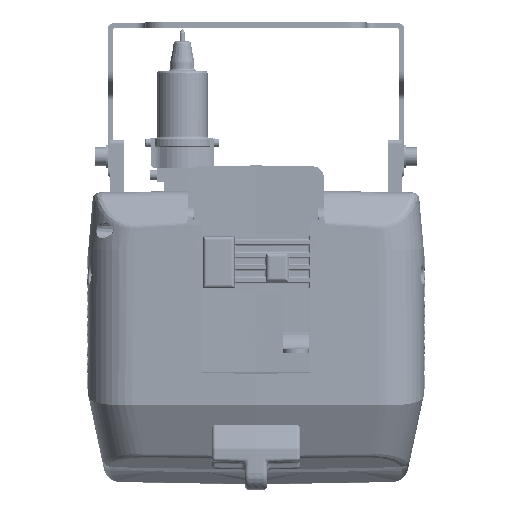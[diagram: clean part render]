
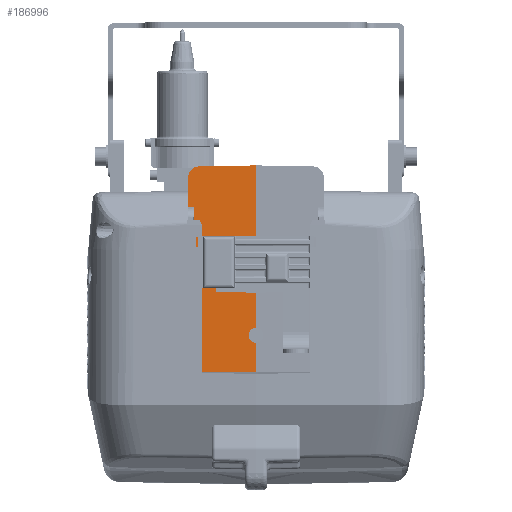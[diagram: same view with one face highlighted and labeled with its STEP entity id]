
A CAD part, front view. The second image highlights one B-rep face of the part: STEP entity #186996.
In plain terms, the highlighted planar face has unit normal (0.018, -1, 0).
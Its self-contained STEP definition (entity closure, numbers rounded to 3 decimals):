
#2587 = CARTESIAN_POINT ( 'NONE',  ( -0.262, -233.905, 45.168 ) ) ;
#8382 = CARTESIAN_POINT ( 'NONE',  ( 0., -233.9, -500000. ) ) ;
#8784 = LINE ( 'NONE', #9835, #206971 ) ;
#9463 = CARTESIAN_POINT ( 'NONE',  ( -33.733, -234.489, -65.396 ) ) ;
#9835 = CARTESIAN_POINT ( 'NONE',  ( 8276.214, -89.438, -204.257 ) ) ;
#9976 =( BOUNDED_CURVE ( )  B_SPLINE_CURVE ( 3, ( #124158, #154887, #171832, #91422 ),
 .UNSPECIFIED., .F., .T. ) 
 B_SPLINE_CURVE_WITH_KNOTS ( ( 4, 4 ),
 ( 5.65, 7.2 ),
 .UNSPECIFIED. ) 
 CURVE ( )  GEOMETRIC_REPRESENTATION_ITEM ( )  RATIONAL_B_SPLINE_CURVE ( ( 1., 0.809, 0.809, 1. ) ) 
 REPRESENTATION_ITEM ( '' )  );
#10472 = DIRECTION ( 'NONE',  ( 0., 0., 1. ) ) ;
#14296 = EDGE_LOOP ( 'NONE', ( #159628, #145640, #46091, #40464, #60163, #127505, #83917, #26564, #110088, #155533, #118351, #141555, #91053, #155002 ) ) ;
#15264 = CARTESIAN_POINT ( 'NONE',  ( 6108.58, -127.274, -52.559 ) ) ;
#16001 = EDGE_CURVE ( 'NONE', #159139, #88670, #18455, .T. ) ;
#18455 = LINE ( 'NONE', #2587, #204445 ) ;
#22668 = VECTOR ( 'NONE', #147428, 1000. ) ;
#25341 = CARTESIAN_POINT ( 'NONE',  ( -30.787, -234.437, -66.657 ) ) ;
#26564 = ORIENTED_EDGE ( 'NONE', *, *, #37555, .T. ) ;
#27009 = VERTEX_POINT ( 'NONE', #204802 ) ;
#27067 = LINE ( 'NONE', #175209, #57710 ) ;
#27421 = CARTESIAN_POINT ( 'NONE',  ( -33.733, -234.489, -63.665 ) ) ;
#27786 = CARTESIAN_POINT ( 'NONE',  ( -8722.244, -386.147, -150.747 ) ) ;
#32400 = DIRECTION ( 'NONE',  ( -1., -0.017, 0.017 ) ) ;
#35600 = CARTESIAN_POINT ( 'NONE',  ( 0., -233.9, -500000. ) ) ;
#35984 = CARTESIAN_POINT ( 'NONE',  ( 0., -233.9, -51.05 ) ) ;
#37555 = EDGE_CURVE ( 'NONE', #199817, #70993, #82910, .T. ) ;
#39531 = CARTESIAN_POINT ( 'NONE',  ( 0., -233.9, 45.172 ) ) ;
#39652 = EDGE_CURVE ( 'NONE', #166117, #118327, #85365, .T. ) ;
#40464 = ORIENTED_EDGE ( 'NONE', *, *, #46249, .T. ) ;
#43786 = DIRECTION ( 'NONE',  ( 0.017, -1., 0. ) ) ;
#44944 = LINE ( 'NONE', #15264, #201030 ) ;
#46074 = EDGE_CURVE ( 'NONE', #147266, #166117, #8784, .T. ) ;
#46091 = ORIENTED_EDGE ( 'NONE', *, *, #207084, .F. ) ;
#46249 = EDGE_CURVE ( 'NONE', #106358, #187111, #110352, .T. ) ;
#53590 = DIRECTION ( 'NONE',  ( 0., 0., 1. ) ) ;
#57710 = VECTOR ( 'NONE', #206962, 1000. ) ;
#58012 = VECTOR ( 'NONE', #10472, 1000. ) ;
#58018 = VECTOR ( 'NONE', #195783, 1000. ) ;
#60163 = ORIENTED_EDGE ( 'NONE', *, *, #121279, .T. ) ;
#62920 = DIRECTION ( 'NONE',  ( -1., -0.017, 0.012 ) ) ;
#65621 = LINE ( 'NONE', #131199, #58018 ) ;
#70993 = VERTEX_POINT ( 'NONE', #84471 ) ;
#71761 = VECTOR ( 'NONE', #205602, 1000. ) ;
#73387 = DIRECTION ( 'NONE',  ( 1., 0.017, -0.017 ) ) ;
#75878 = CARTESIAN_POINT ( 'NONE',  ( -8.1, -234.041, -42.95 ) ) ;
#78714 = DIRECTION ( 'NONE',  ( -1., -0.017, 0. ) ) ;
#81236 = VECTOR ( 'NONE', #32400, 1000. ) ;
#82910 = LINE ( 'NONE', #148496, #22668 ) ;
#83047 = VERTEX_POINT ( 'NONE', #124326 ) ;
#83059 = EDGE_CURVE ( 'NONE', #185050, #70993, #44944, .T. ) ;
#83240 = CARTESIAN_POINT ( 'NONE',  ( -30.787, -234.437, -66.657 ) ) ;
#83917 = ORIENTED_EDGE ( 'NONE', *, *, #140193, .F. ) ;
#84471 = CARTESIAN_POINT ( 'NONE',  ( -36.74, -234.541, 22.55 ) ) ;
#85365 = LINE ( 'NONE', #35600, #174816 ) ;
#88670 = VERTEX_POINT ( 'NONE', #165176 ) ;
#89933 = CARTESIAN_POINT ( 'NONE',  ( -32.52, -234.468, -66.629 ) ) ;
#91053 = ORIENTED_EDGE ( 'NONE', *, *, #39652, .T. ) ;
#91422 = CARTESIAN_POINT ( 'NONE',  ( -30.847, -234.438, 44.661 ) ) ;
#94443 =( BOUNDED_CURVE ( )  B_SPLINE_CURVE ( 3, ( #184907, #75878, #170073, #138336 ),
 .UNSPECIFIED., .F., .F. ) 
 B_SPLINE_CURVE_WITH_KNOTS ( ( 4, 4 ),
 ( 4.712, 7.854 ),
 .UNSPECIFIED. ) 
 CURVE ( )  GEOMETRIC_REPRESENTATION_ITEM ( )  RATIONAL_B_SPLINE_CURVE ( ( 1., 0.333, 0.333, 1. ) ) 
 REPRESENTATION_ITEM ( '' )  );
#99317 = CARTESIAN_POINT ( 'NONE',  ( -21.75, -234.28, -500000. ) ) ;
#104942 = CARTESIAN_POINT ( 'NONE',  ( 0., -233.9, -23.9 ) ) ;
#105003 = CARTESIAN_POINT ( 'NONE',  ( 0., -233.9, 1.5 ) ) ;
#106287 = PLANE ( 'NONE',  #149236 ) ;
#106358 = VERTEX_POINT ( 'NONE', #182258 ) ;
#110088 = ORIENTED_EDGE ( 'NONE', *, *, #83059, .F. ) ;
#110352 = LINE ( 'NONE', #27786, #71761 ) ;
#115195 = LINE ( 'NONE', #99317, #174152 ) ;
#118327 = VERTEX_POINT ( 'NONE', #35984 ) ;
#118351 = ORIENTED_EDGE ( 'NONE', *, *, #133139, .F. ) ;
#121279 = EDGE_CURVE ( 'NONE', #187111, #159139, #27067, .T. ) ;
#122365 = EDGE_CURVE ( 'NONE', #185050, #137509, #65621, .T. ) ;
#124158 = CARTESIAN_POINT ( 'NONE',  ( -36.74, -234.541, 38.675 ) ) ;
#124326 = CARTESIAN_POINT ( 'NONE',  ( -21.75, -234.28, -23.52 ) ) ;
#125141 = CARTESIAN_POINT ( 'NONE',  ( -33.733, -234.489, -63.665 ) ) ;
#127505 = ORIENTED_EDGE ( 'NONE', *, *, #16001, .T. ) ;
#129197 = CARTESIAN_POINT ( 'NONE',  ( 0., -233.9, -67.167 ) ) ;
#131199 = CARTESIAN_POINT ( 'NONE',  ( -33.733, -234.489, -500000. ) ) ;
#133139 = EDGE_CURVE ( 'NONE', #147266, #137509, #149067, .T. ) ;
#137509 = VERTEX_POINT ( 'NONE', #125141 ) ;
#138336 = CARTESIAN_POINT ( 'NONE',  ( 0., -233.9, -51.05 ) ) ;
#140193 = EDGE_CURVE ( 'NONE', #199817, #88670, #9976, .T. ) ;
#141555 = ORIENTED_EDGE ( 'NONE', *, *, #46074, .T. ) ;
#145640 = ORIENTED_EDGE ( 'NONE', *, *, #146009, .T. ) ;
#145657 = CARTESIAN_POINT ( 'NONE',  ( 8721.801, -81.66, -176.14 ) ) ;
#146009 = EDGE_CURVE ( 'NONE', #153458, #83047, #163589, .T. ) ;
#147266 = VERTEX_POINT ( 'NONE', #83240 ) ;
#147428 = DIRECTION ( 'NONE',  ( 0., 0., -1. ) ) ;
#148496 = CARTESIAN_POINT ( 'NONE',  ( -36.74, -234.541, -128. ) ) ;
#149067 =( BOUNDED_CURVE ( )  B_SPLINE_CURVE ( 3, ( #25341, #89933, #9463, #27421 ),
 .UNSPECIFIED., .F., .F. ) 
 B_SPLINE_CURVE_WITH_KNOTS ( ( 4, 4 ),
 ( 2.224, 3.775 ),
 .UNSPECIFIED. ) 
 CURVE ( )  GEOMETRIC_REPRESENTATION_ITEM ( )  RATIONAL_B_SPLINE_CURVE ( ( 1., 0.809, 0.809, 1. ) ) 
 REPRESENTATION_ITEM ( '' )  );
#149236 = AXIS2_PLACEMENT_3D ( 'NONE', #206766, #43786, #78714 ) ;
#153458 = VERTEX_POINT ( 'NONE', #104942 ) ;
#154887 = CARTESIAN_POINT ( 'NONE',  ( -36.74, -234.541, 42.139 ) ) ;
#155002 = ORIENTED_EDGE ( 'NONE', *, *, #171278, .F. ) ;
#155465 = LINE ( 'NONE', #8382, #58012 ) ;
#155533 = ORIENTED_EDGE ( 'NONE', *, *, #122365, .T. ) ;
#159139 = VERTEX_POINT ( 'NONE', #39531 ) ;
#159628 = ORIENTED_EDGE ( 'NONE', *, *, #161177, .T. ) ;
#161177 = EDGE_CURVE ( 'NONE', #27009, #153458, #155465, .T. ) ;
#163589 = LINE ( 'NONE', #145657, #81236 ) ;
#163875 = DIRECTION ( 'NONE',  ( 0., 0., -1. ) ) ;
#165176 = CARTESIAN_POINT ( 'NONE',  ( -30.847, -234.438, 44.661 ) ) ;
#166117 = VERTEX_POINT ( 'NONE', #129197 ) ;
#170073 = CARTESIAN_POINT ( 'NONE',  ( -8.1, -234.041, -51.05 ) ) ;
#171278 = EDGE_CURVE ( 'NONE', #27009, #118327, #94443, .T. ) ;
#171832 = CARTESIAN_POINT ( 'NONE',  ( -34.313, -234.499, 44.604 ) ) ;
#172563 = CARTESIAN_POINT ( 'NONE',  ( -36.74, -234.541, 38.675 ) ) ;
#174152 = VECTOR ( 'NONE', #163875, 1000. ) ;
#174816 = VECTOR ( 'NONE', #53590, 1000. ) ;
#175209 = CARTESIAN_POINT ( 'NONE',  ( 0., -233.9, -500000. ) ) ;
#178786 = CARTESIAN_POINT ( 'NONE',  ( -33.733, -234.489, 22.513 ) ) ;
#182258 = CARTESIAN_POINT ( 'NONE',  ( -21.75, -234.28, 1.12 ) ) ;
#184907 = CARTESIAN_POINT ( 'NONE',  ( 0., -233.9, -42.95 ) ) ;
#185050 = VERTEX_POINT ( 'NONE', #178786 ) ;
#186996 = ADVANCED_FACE ( 'NONE', ( #187749 ), #106287, .T. ) ;
#187111 = VERTEX_POINT ( 'NONE', #105003 ) ;
#187749 = FACE_OUTER_BOUND ( 'NONE', #14296, .T. ) ;
#195783 = DIRECTION ( 'NONE',  ( 0., 0., -1. ) ) ;
#198353 = DIRECTION ( 'NONE',  ( -1., -0.017, -0.017 ) ) ;
#199817 = VERTEX_POINT ( 'NONE', #172563 ) ;
#201030 = VECTOR ( 'NONE', #62920, 1000. ) ;
#204445 = VECTOR ( 'NONE', #198353, 1000. ) ;
#204802 = CARTESIAN_POINT ( 'NONE',  ( 0., -233.9, -42.95 ) ) ;
#205602 = DIRECTION ( 'NONE',  ( 1., 0.017, 0.017 ) ) ;
#206766 = CARTESIAN_POINT ( 'NONE',  ( 0., -233.9, -500000. ) ) ;
#206962 = DIRECTION ( 'NONE',  ( 0., 0., 1. ) ) ;
#206971 = VECTOR ( 'NONE', #73387, 1000. ) ;
#207084 = EDGE_CURVE ( 'NONE', #106358, #83047, #115195, .T. ) ;
